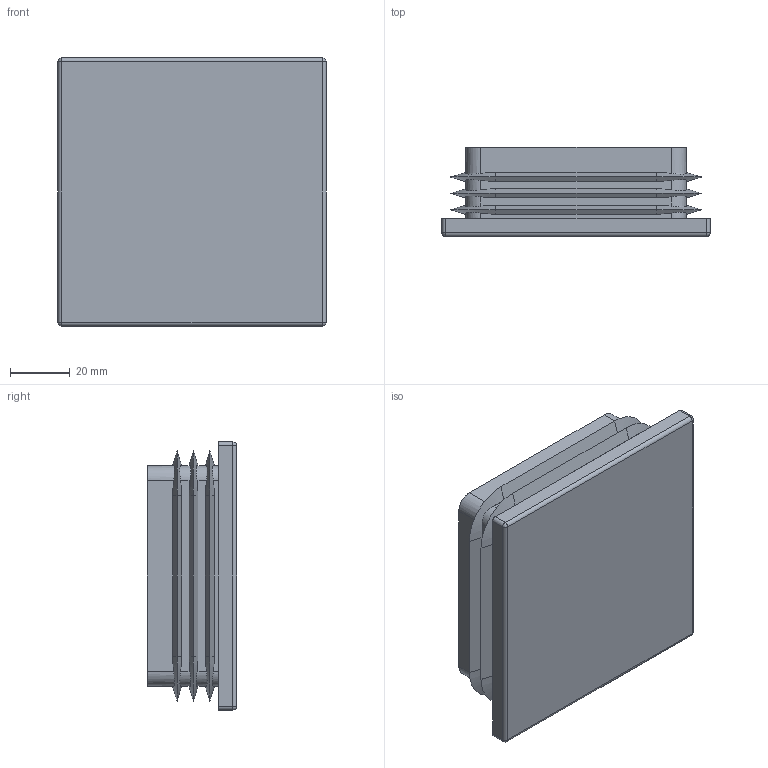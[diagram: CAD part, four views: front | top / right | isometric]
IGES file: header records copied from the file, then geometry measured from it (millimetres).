
Start section: SolidWorks IGES file using analytic representation for surfaces
Global section: file name: C:\HEMSIDA\cad\SLDPRT_2015\ifr\\ifr_90.igs; native system: SolidWorks 2015; preprocessor: SolidWorks 2015; author: Magnus; date: 150818.111810; units: millimetre
Bounding box: 90 x 30 x 90 mm (x, y, z)
Surface area: 38106.6 mm2 (no closed solid volume)
Topology: 0 solids, 0 shells, 108 faces, 1032 edges, 1028 vertices
Faces by surface type: revolution 56, bspline 52
